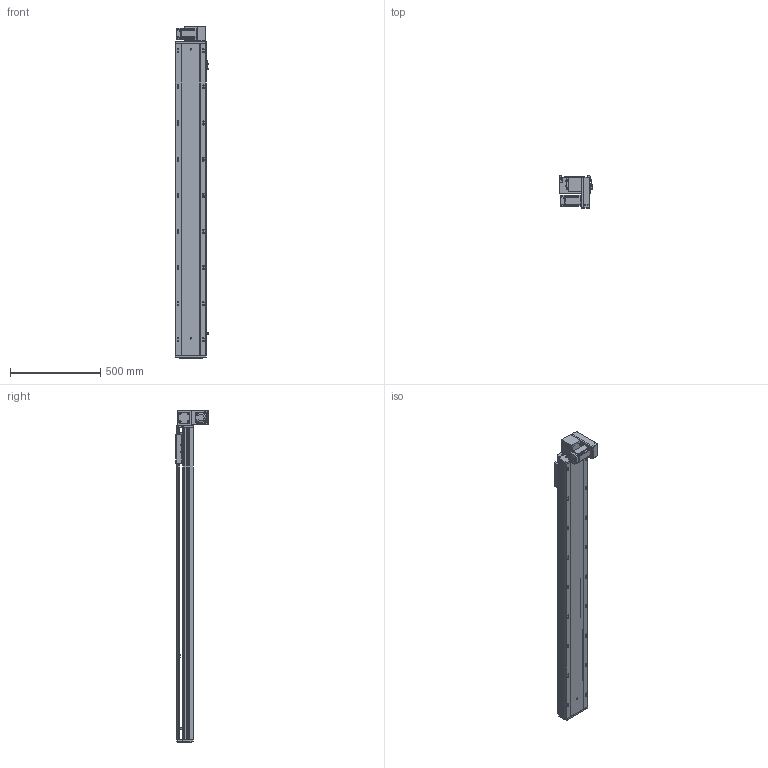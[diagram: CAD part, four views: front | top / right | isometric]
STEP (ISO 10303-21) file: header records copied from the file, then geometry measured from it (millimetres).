
FILE_DESCRIPTION (( 'STEP AP203' ), '1' );
FILE_NAME ('RY170-T-300-DR-P400W.SLDASM_1450.step', '2021-03-01T08:24:04', ( '盈信电脑' ), ( '东莞市道滘镇水果街19号' ), 'SwSTEP 2.0', 'SolidWorks 2012', '' );
FILE_SCHEMA (( 'CONFIG_CONTROL_DESIGN' ));
Products named in the file (19): RY170-T-300-DR-P400W.SLDASM_1450; RY170-T-呴雄粣揤踡啣; 滅袉蝶18-10; 15; RY170-T蹟翐M4; RY120-T主同步轮轴承压盖; RY170-T肮祭謫裔啣; RY170-T肮祭湍揤踡輸2; RY170翋肮祭謫釱; RY170肮祭謫萇儂欶; RY170-T肮祭湍揤踡輸1; RY170同步轮电机安装板(400W); RY170綴裔啣; RY170肮祭謫ヶ裔啣; RY170外置感应片(200共用）; 覜茼ん672; RY170-T-300肮祭謫倰第菁釱-DR_1450; RY170肮祭湍臏賑輸; RY170-T-300肮祭謫倰第裔啣-DR_1450
Assembly tree (23 placements, depth 2):
  RY170-T-300-DR-P400W.SLDASM_1450
    RY170-T-300肮祭謫倰第菁釱-DR_1450
    RY170肮祭湍臏賑輸
    RY170-T-300肮祭謫倰第裔啣-DR_1450
    RY170綴裔啣
    覜茼ん672  x3
    RY170外置感应片(200共用）
    RY170肮祭謫ヶ裔啣
    RY170翋肮祭謫釱
    RY170同步轮电机安装板(400W)
    RY170肮祭謫萇儂欶
    RY170-T肮祭湍揤踡輸1  x2
    RY170-T肮祭湍揤踡輸2  x2
    RY120-T主同步轮轴承压盖
    RY170-T肮祭謫裔啣
    RY170-T蹟翐M4
    滅袉蝶18-10  x2
    RY170-T-呴雄粣揤踡啣
    15
Bounding box: 183.7 x 178 x 1838 mm (x, y, z)
Volume: 8795970.8 mm3; surface area: 3008506.8 mm2
Topology: 23 solids, 23 shells, 2866 faces, 7974 edges, 5101 vertices
Faces by surface type: cylinder 1300, plane 1268, cone 268, bspline 30
Entity records: 86045 total; most frequent: CARTESIAN_POINT 19353, ORIENTED_EDGE 13592, DIRECTION 13360, EDGE_CURVE 6796, AXIS2_PLACEMENT_3D 4718, VERTEX_POINT 4457, VECTOR 3924, LINE 3924
